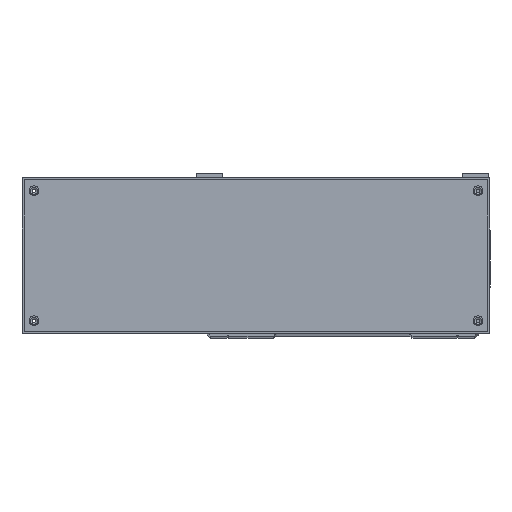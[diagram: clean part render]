
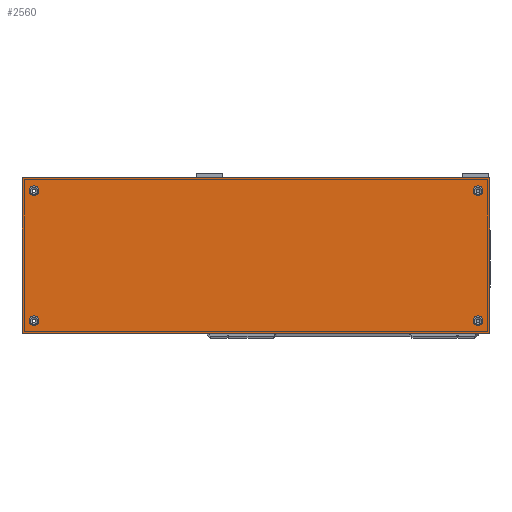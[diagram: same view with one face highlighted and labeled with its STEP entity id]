
A CAD part, top view. The second image highlights one B-rep face of the part: STEP entity #2560.
In plain terms, the highlighted planar face has unit normal (0, 0, 1).
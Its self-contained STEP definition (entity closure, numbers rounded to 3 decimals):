
#856=FACE_BOUND('',#4463,.T.);
#857=FACE_BOUND('',#4464,.T.);
#858=FACE_BOUND('',#4465,.T.);
#859=FACE_BOUND('',#4466,.T.);
#860=FACE_BOUND('',#4467,.T.);
#1878=CIRCLE('',#15849,2.25);
#1880=CIRCLE('',#15852,2.25);
#1882=CIRCLE('',#15855,2.25);
#1884=CIRCLE('',#15858,2.25);
#2560=ADVANCED_FACE('',(#856,#857,#858,#859,#860),#3297,.F.);
#3297=PLANE('',#15864);
#4463=EDGE_LOOP('',(#6827));
#4464=EDGE_LOOP('',(#6828));
#4465=EDGE_LOOP('',(#6829));
#4466=EDGE_LOOP('',(#6830));
#4467=EDGE_LOOP('',(#6831,#6832,#6833,#6834));
#6827=ORIENTED_EDGE('',*,*,#11982,.F.);
#6828=ORIENTED_EDGE('',*,*,#11984,.F.);
#6829=ORIENTED_EDGE('',*,*,#11986,.F.);
#6830=ORIENTED_EDGE('',*,*,#11988,.F.);
#6831=ORIENTED_EDGE('',*,*,#11742,.F.);
#6832=ORIENTED_EDGE('',*,*,#11998,.F.);
#6833=ORIENTED_EDGE('',*,*,#11989,.F.);
#6834=ORIENTED_EDGE('',*,*,#11769,.F.);
#10098=VERTEX_POINT('',#23235);
#10099=VERTEX_POINT('',#23237);
#10114=VERTEX_POINT('',#23282);
#10260=VERTEX_POINT('',#24163);
#10262=VERTEX_POINT('',#24168);
#10264=VERTEX_POINT('',#24173);
#10266=VERTEX_POINT('',#24178);
#10267=VERTEX_POINT('',#24181);
#11742=EDGE_CURVE('',#10098,#10099,#13491,.T.);
#11769=EDGE_CURVE('',#10099,#10114,#13516,.T.);
#11982=EDGE_CURVE('',#10260,#10260,#1878,.T.);
#11984=EDGE_CURVE('',#10262,#10262,#1880,.T.);
#11986=EDGE_CURVE('',#10264,#10264,#1882,.T.);
#11988=EDGE_CURVE('',#10266,#10266,#1884,.T.);
#11989=EDGE_CURVE('',#10114,#10267,#13625,.T.);
#11998=EDGE_CURVE('',#10267,#10098,#13632,.T.);
#13491=LINE('',#23236,#14577);
#13516=LINE('',#23281,#14602);
#13625=LINE('',#24180,#14711);
#13632=LINE('',#24197,#14718);
#14577=VECTOR('',#18178,1.);
#14602=VECTOR('',#18213,1.);
#14711=VECTOR('',#18664,1.);
#14718=VECTOR('',#18677,1.);
#15849=AXIS2_PLACEMENT_3D('',#24162,#18642,#18643);
#15852=AXIS2_PLACEMENT_3D('',#24167,#18648,#18649);
#15855=AXIS2_PLACEMENT_3D('',#24172,#18654,#18655);
#15858=AXIS2_PLACEMENT_3D('',#24177,#18660,#18661);
#15864=AXIS2_PLACEMENT_3D('',#24204,#18683,#18684);
#18178=DIRECTION('',(0.,-1.,0.));
#18213=DIRECTION('',(-1.,0.,0.));
#18642=DIRECTION('',(0.,0.,1.));
#18643=DIRECTION('',(-1.,0.,0.));
#18648=DIRECTION('',(0.,0.,1.));
#18649=DIRECTION('',(1.,0.,0.));
#18654=DIRECTION('',(0.,0.,1.));
#18655=DIRECTION('',(-1.,0.,0.));
#18660=DIRECTION('',(0.,0.,1.));
#18661=DIRECTION('',(1.,0.,0.));
#18664=DIRECTION('',(0.,1.,0.));
#18677=DIRECTION('',(1.,0.,0.));
#18683=DIRECTION('',(0.,0.,-1.));
#18684=DIRECTION('',(1.,0.,0.));
#23235=CARTESIAN_POINT('',(68.,72.,193.));
#23236=CARTESIAN_POINT('',(68.,72.,193.));
#23237=CARTESIAN_POINT('',(68.,0.,193.));
#23281=CARTESIAN_POINT('',(68.,0.,193.));
#23282=CARTESIAN_POINT('',(-148.,0.,193.));
#24162=CARTESIAN_POINT('',(-142.5,6.,193.));
#24163=CARTESIAN_POINT('',(-144.75,6.,193.));
#24167=CARTESIAN_POINT('',(62.5,6.,193.));
#24168=CARTESIAN_POINT('',(64.75,6.,193.));
#24172=CARTESIAN_POINT('',(62.5,66.,193.));
#24173=CARTESIAN_POINT('',(60.25,66.,193.));
#24177=CARTESIAN_POINT('',(-142.5,66.,193.));
#24178=CARTESIAN_POINT('',(-140.25,66.,193.));
#24180=CARTESIAN_POINT('',(-148.,72.,193.));
#24181=CARTESIAN_POINT('',(-148.,72.,193.));
#24197=CARTESIAN_POINT('',(68.,72.,193.));
#24204=CARTESIAN_POINT('',(-40.,36.,193.));
